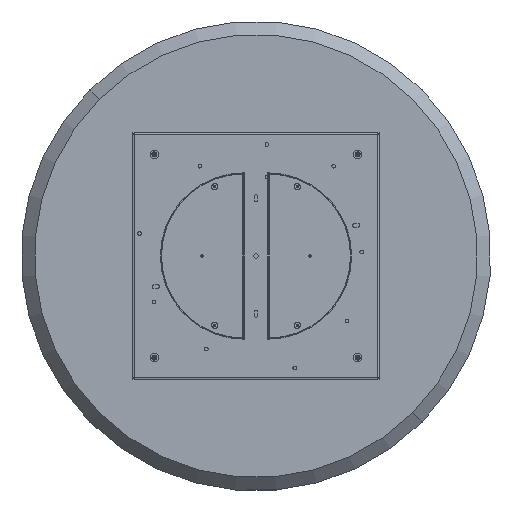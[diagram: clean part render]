
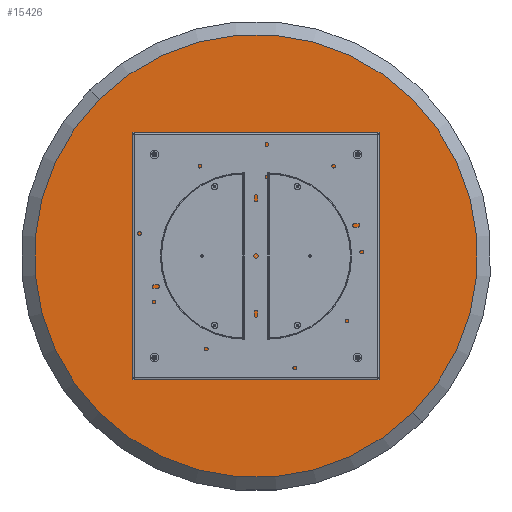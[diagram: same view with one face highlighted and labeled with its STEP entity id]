
A CAD part, front view. The second image highlights one B-rep face of the part: STEP entity #15426.
In plain terms, the highlighted planar face has unit normal (0, -1, 0).
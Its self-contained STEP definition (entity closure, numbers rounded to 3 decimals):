
#5 = DIRECTION ( 'NONE',  ( 0., -1., 0. ) ) ;
#24 = EDGE_LOOP ( 'NONE', ( #15398, #10880 ) ) ;
#84 = PLANE ( 'NONE',  #3664 ) ;
#641 = VERTEX_POINT ( 'NONE', #13153 ) ;
#938 = CIRCLE ( 'NONE', #11380, 3.4 ) ;
#1118 = CARTESIAN_POINT ( 'NONE',  ( 0., 0., 0. ) ) ;
#1401 = EDGE_CURVE ( 'NONE', #8232, #7949, #10614, .T. ) ;
#1419 = FACE_BOUND ( 'NONE', #24, .T. ) ;
#1442 = DIRECTION ( 'NONE',  ( 0., 0., -1. ) ) ;
#2061 = DIRECTION ( 'NONE',  ( 0., -1., 0. ) ) ;
#2239 = ORIENTED_EDGE ( 'NONE', *, *, #16209, .T. ) ;
#2288 = EDGE_CURVE ( 'NONE', #4079, #9836, #14165, .T. ) ;
#2327 = CIRCLE ( 'NONE', #12732, 3.4 ) ;
#2574 = CARTESIAN_POINT ( 'NONE',  ( 397.5, 0., -3.4 ) ) ;
#2617 = EDGE_CURVE ( 'NONE', #5541, #12770, #15519, .T. ) ;
#2626 = CARTESIAN_POINT ( 'NONE',  ( 0., 0., -397.5 ) ) ;
#2736 = AXIS2_PLACEMENT_3D ( 'NONE', #13352, #5659, #15879 ) ;
#2744 = ORIENTED_EDGE ( 'NONE', *, *, #2617, .F. ) ;
#2809 = DIRECTION ( 'NONE',  ( 0., 0., -1. ) ) ;
#2917 = DIRECTION ( 'NONE',  ( 0., -1., 0. ) ) ;
#3160 = ORIENTED_EDGE ( 'NONE', *, *, #12345, .F. ) ;
#3299 = EDGE_LOOP ( 'NONE', ( #6949, #2239 ) ) ;
#3375 = AXIS2_PLACEMENT_3D ( 'NONE', #13534, #2061, #4901 ) ;
#3497 = DIRECTION ( 'NONE',  ( 0., -1., 0. ) ) ;
#3664 = AXIS2_PLACEMENT_3D ( 'NONE', #6536, #5, #15417 ) ;
#3684 = DIRECTION ( 'NONE',  ( 0., 0., -1. ) ) ;
#3730 = DIRECTION ( 'NONE',  ( 0., -1., 0. ) ) ;
#3914 = DIRECTION ( 'NONE',  ( 0., -1., 0. ) ) ;
#4016 = AXIS2_PLACEMENT_3D ( 'NONE', #12441, #3497, #14889 ) ;
#4079 = VERTEX_POINT ( 'NONE', #12695 ) ;
#4124 = DIRECTION ( 'NONE',  ( 0., 0., -1. ) ) ;
#4219 = DIRECTION ( 'NONE',  ( 0., -1., 0. ) ) ;
#4494 = CIRCLE ( 'NONE', #11438, 613. ) ;
#4700 = ORIENTED_EDGE ( 'NONE', *, *, #13065, .F. ) ;
#4901 = DIRECTION ( 'NONE',  ( 0., 0., -1. ) ) ;
#5439 = CARTESIAN_POINT ( 'NONE',  ( 0., 0., 0. ) ) ;
#5541 = VERTEX_POINT ( 'NONE', #15061 ) ;
#5620 = AXIS2_PLACEMENT_3D ( 'NONE', #5439, #2917, #9202 ) ;
#5659 = DIRECTION ( 'NONE',  ( 0., -1., 0. ) ) ;
#6211 = CIRCLE ( 'NONE', #2736, 3.4 ) ;
#6228 = EDGE_CURVE ( 'NONE', #10094, #641, #6211, .T. ) ;
#6280 = AXIS2_PLACEMENT_3D ( 'NONE', #8637, #8462, #3684 ) ;
#6430 = EDGE_LOOP ( 'NONE', ( #3160, #16301 ) ) ;
#6536 = CARTESIAN_POINT ( 'NONE',  ( 0., 0., 0. ) ) ;
#6751 = CARTESIAN_POINT ( 'NONE',  ( 0., 0., -400.9 ) ) ;
#6949 = ORIENTED_EDGE ( 'NONE', *, *, #2288, .T. ) ;
#7427 = ORIENTED_EDGE ( 'NONE', *, *, #12267, .F. ) ;
#7949 = VERTEX_POINT ( 'NONE', #15349 ) ;
#7987 = CARTESIAN_POINT ( 'NONE',  ( -397.5, 0., 0. ) ) ;
#8227 = CARTESIAN_POINT ( 'NONE',  ( 0., 0., -613. ) ) ;
#8232 = VERTEX_POINT ( 'NONE', #13673 ) ;
#8462 = DIRECTION ( 'NONE',  ( 0., -1., 0. ) ) ;
#8595 = EDGE_CURVE ( 'NONE', #15907, #14264, #14019, .T. ) ;
#8637 = CARTESIAN_POINT ( 'NONE',  ( 0., 0., -397.5 ) ) ;
#9048 = FACE_OUTER_BOUND ( 'NONE', #3299, .T. ) ;
#9202 = DIRECTION ( 'NONE',  ( 0., 0., -1. ) ) ;
#9682 = EDGE_LOOP ( 'NONE', ( #16034, #7427 ) ) ;
#9836 = VERTEX_POINT ( 'NONE', #8227 ) ;
#10094 = VERTEX_POINT ( 'NONE', #12959 ) ;
#10285 = FACE_BOUND ( 'NONE', #6430, .T. ) ;
#10614 = CIRCLE ( 'NONE', #15707, 3.4 ) ;
#10874 = EDGE_LOOP ( 'NONE', ( #4700, #2744 ) ) ;
#10880 = ORIENTED_EDGE ( 'NONE', *, *, #14130, .F. ) ;
#11380 = AXIS2_PLACEMENT_3D ( 'NONE', #15648, #3914, #12868 ) ;
#11438 = AXIS2_PLACEMENT_3D ( 'NONE', #1118, #16285, #12502 ) ;
#11664 = CIRCLE ( 'NONE', #3375, 3.4 ) ;
#11674 = CIRCLE ( 'NONE', #14087, 3.4 ) ;
#11679 = CARTESIAN_POINT ( 'NONE',  ( 0., 0., 397.5 ) ) ;
#12030 = CARTESIAN_POINT ( 'NONE',  ( 0., 0., -394.1 ) ) ;
#12267 = EDGE_CURVE ( 'NONE', #14264, #15907, #2327, .T. ) ;
#12345 = EDGE_CURVE ( 'NONE', #641, #10094, #11674, .T. ) ;
#12441 = CARTESIAN_POINT ( 'NONE',  ( 397.5, 0., 0. ) ) ;
#12502 = DIRECTION ( 'NONE',  ( 0., 0., -1. ) ) ;
#12695 = CARTESIAN_POINT ( 'NONE',  ( 0., 0., 613. ) ) ;
#12732 = AXIS2_PLACEMENT_3D ( 'NONE', #2626, #12829, #4124 ) ;
#12770 = VERTEX_POINT ( 'NONE', #2574 ) ;
#12829 = DIRECTION ( 'NONE',  ( 0., -1., 0. ) ) ;
#12868 = DIRECTION ( 'NONE',  ( 0., 0., -1. ) ) ;
#12959 = CARTESIAN_POINT ( 'NONE',  ( -397.5, 0., 3.4 ) ) ;
#13065 = EDGE_CURVE ( 'NONE', #12770, #5541, #11664, .T. ) ;
#13153 = CARTESIAN_POINT ( 'NONE',  ( -397.5, 0., -3.4 ) ) ;
#13352 = CARTESIAN_POINT ( 'NONE',  ( -397.5, 0., 0. ) ) ;
#13534 = CARTESIAN_POINT ( 'NONE',  ( 397.5, 0., 0. ) ) ;
#13673 = CARTESIAN_POINT ( 'NONE',  ( 0., 0., 394.1 ) ) ;
#13917 = FACE_BOUND ( 'NONE', #9682, .T. ) ;
#14019 = CIRCLE ( 'NONE', #6280, 3.4 ) ;
#14087 = AXIS2_PLACEMENT_3D ( 'NONE', #7987, #4219, #1442 ) ;
#14130 = EDGE_CURVE ( 'NONE', #7949, #8232, #938, .T. ) ;
#14165 = CIRCLE ( 'NONE', #5620, 613. ) ;
#14264 = VERTEX_POINT ( 'NONE', #12030 ) ;
#14889 = DIRECTION ( 'NONE',  ( 0., 0., -1. ) ) ;
#15061 = CARTESIAN_POINT ( 'NONE',  ( 397.5, 0., 3.4 ) ) ;
#15349 = CARTESIAN_POINT ( 'NONE',  ( 0., 0., 400.9 ) ) ;
#15398 = ORIENTED_EDGE ( 'NONE', *, *, #1401, .F. ) ;
#15417 = DIRECTION ( 'NONE',  ( 0., 0., -1. ) ) ;
#15426 = ADVANCED_FACE ( 'NONE', ( #9048, #13917, #10285, #15500, #1419 ), #84, .T. ) ;
#15500 = FACE_BOUND ( 'NONE', #10874, .T. ) ;
#15519 = CIRCLE ( 'NONE', #4016, 3.4 ) ;
#15648 = CARTESIAN_POINT ( 'NONE',  ( 0., 0., 397.5 ) ) ;
#15707 = AXIS2_PLACEMENT_3D ( 'NONE', #11679, #3730, #2809 ) ;
#15879 = DIRECTION ( 'NONE',  ( 0., 0., -1. ) ) ;
#15907 = VERTEX_POINT ( 'NONE', #6751 ) ;
#16034 = ORIENTED_EDGE ( 'NONE', *, *, #8595, .F. ) ;
#16209 = EDGE_CURVE ( 'NONE', #9836, #4079, #4494, .T. ) ;
#16285 = DIRECTION ( 'NONE',  ( 0., -1., 0. ) ) ;
#16301 = ORIENTED_EDGE ( 'NONE', *, *, #6228, .F. ) ;
